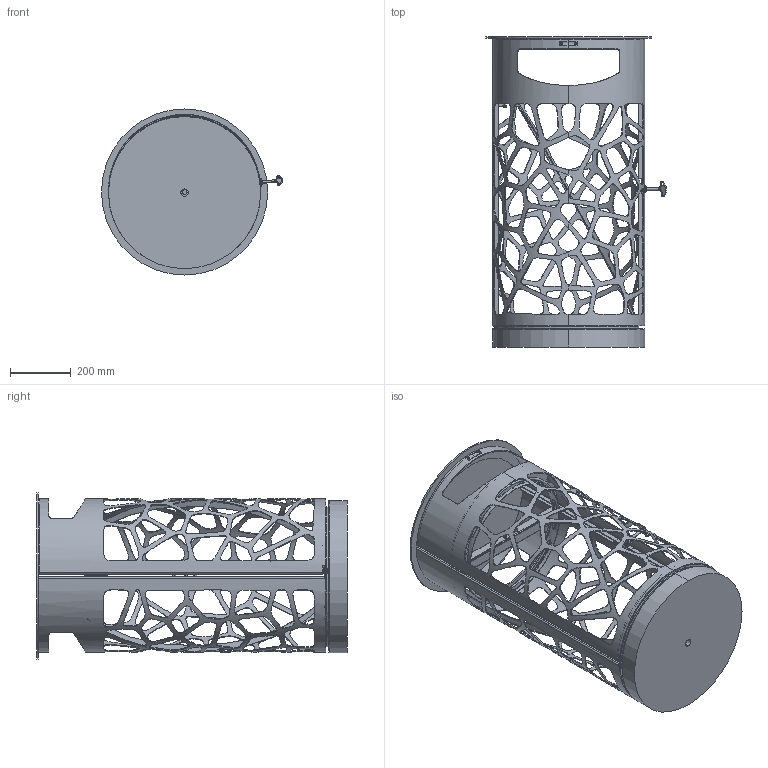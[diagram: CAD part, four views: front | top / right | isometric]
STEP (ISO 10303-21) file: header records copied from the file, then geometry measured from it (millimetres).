
FILE_DESCRIPTION (( 'STEP AP214' ), '1' );
FILE_NAME ('AS2405331.STEP', '2024-09-12T14:58:10', ( '' ), ( '' ), 'SwSTEP 2.0', 'SolidWorks 2022', '' );
FILE_SCHEMA (( 'AUTOMOTIVE_DESIGN' ));
Length unit declared in the file: millimetre
Products named in the file (37): CLAM00064; 8409510; 8399320; 8400400; CTUB00029; CLAM00056; CLAM00062; 8460890; 8460680; 8409540; 8460940; 8410570; 8491480_D=501; 8430520; CLAM00070; 8491910; 8409330; CLAM00065; AS2405331; 8404260; CTUB00028; CLAM00066; 8409530; CLAM00058; PA2302373; 8404270; CCEN00001; 8404040; CLAM00061; CCEH00002; 8492040; CVAR00003; 8950110; CLAM00060; CCEG00001; CLAM00057; 7167931
Assembly tree (58 placements, depth 3):
  AS2405331
    CCEH00002
      CLAM00060
      CLAM00061
      CLAM00056
      CTUB00028  x2
      CLAM00062
      CLAM00070
      CLAM00058
      7167931
    CCEN00001
      CLAM00057
      CLAM00056  x3
      CLAM00058
    CCEG00001
      CLAM00064
      CLAM00065
      CTUB00029
    8460940
    8460680
    CLAM00066
    8491910  x2
    CVAR00003  x2
    8950110
    8491480_D=501
    8460890
    8399320  x2
    8409540
    8404260
    8492040  x3
    8409530
    8404040
    8400400  x2
    8409510  x2
    8409330  x2
    8410570
    8430520  x4
    PA2302373  x4
    8404270  x4
Bounding box: 594.82 x 1020 x 546 mm (x, y, z)
Volume: 18449731 mm3; surface area: 3463154.3 mm2
Topology: 57 solids, 57 shells, 1611 faces, 4184 edges, 2658 vertices
Faces by surface type: plane 528, cylinder 459, bspline 358, cone 158, torus 106, sphere 2
Entity records: 181300 total; most frequent: CARTESIAN_POINT 151474, ORIENTED_EDGE 6404, DIRECTION 4695, EDGE_CURVE 3202, VERTEX_POINT 2047, AXIS2_PLACEMENT_3D 1862, EDGE_LOOP 1441, B_SPLINE_CURVE_WITH_KNOTS 1276
